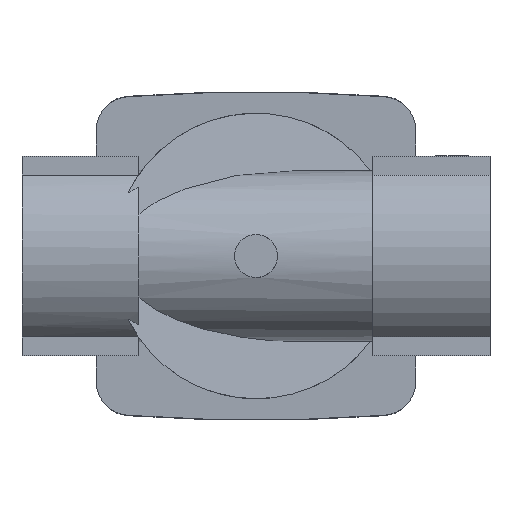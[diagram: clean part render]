
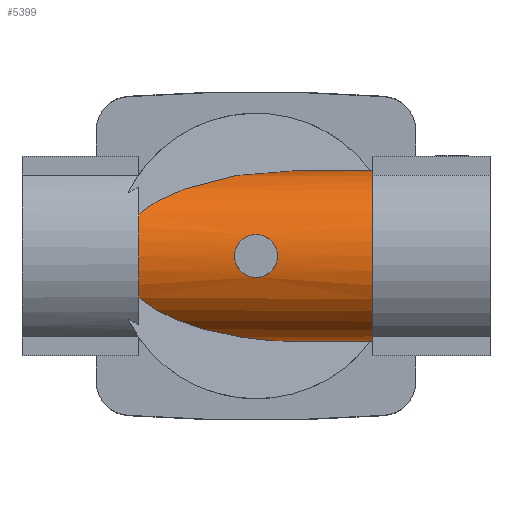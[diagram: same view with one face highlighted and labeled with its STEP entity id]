
A CAD part, front view. The second image highlights one B-rep face of the part: STEP entity #5399.
In plain terms, the highlighted cylindrical face has radius 30 mm (diameter 60 mm), a partial arc.
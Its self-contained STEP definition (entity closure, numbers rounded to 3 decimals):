
#59=ELLIPSE('',#5716,71.15,30.);
#62=ELLIPSE('',#5723,71.15,30.);
#82=B_SPLINE_CURVE_WITH_KNOTS('',3,(#7864,#7865,#7866,#7867,#7868,#7869,
#7870,#7871,#7872,#7873,#7874,#7875,#7876,#7877,#7878,#7879,#7880,#7881,
#7882),.UNSPECIFIED.,.T.,.F.,(1,1,1,1,1,1,1,1,1,1,1,1,1,1,1,1,1,1,1,1,1,
1,1),(-0.009,-0.006,-0.003,0.,
0.003,0.006,0.009,0.012,
0.015,0.018,0.021,0.024,
0.026,0.029,0.032,0.035,
0.038,0.041,0.044,0.047,
0.05,0.053,0.056),.UNSPECIFIED.);
#133=CYLINDRICAL_SURFACE('',#5746,30.);
#367=LINE('',#7859,#785);
#368=LINE('',#7863,#786);
#785=VECTOR('',#6558,1000.);
#786=VECTOR('',#6561,1000.);
#1558=ORIENTED_EDGE('',*,*,#2467,.F.);
#1559=ORIENTED_EDGE('',*,*,#2507,.T.);
#1560=ORIENTED_EDGE('',*,*,#2452,.F.);
#1561=ORIENTED_EDGE('',*,*,#2508,.F.);
#1562=ORIENTED_EDGE('',*,*,#2509,.F.);
#1563=ORIENTED_EDGE('',*,*,#2510,.T.);
#1564=ORIENTED_EDGE('',*,*,#2511,.F.);
#2452=EDGE_CURVE('',#2988,#2989,#59,.F.);
#2467=EDGE_CURVE('',#3001,#3002,#62,.F.);
#2507=EDGE_CURVE('',#3001,#2989,#3282,.T.);
#2508=EDGE_CURVE('',#3022,#2988,#367,.T.);
#2509=EDGE_CURVE('',#3023,#3022,#3283,.T.);
#2510=EDGE_CURVE('',#3023,#3002,#368,.T.);
#2511=EDGE_CURVE('',#3024,#3024,#82,.T.);
#2988=VERTEX_POINT('',#7744);
#2989=VERTEX_POINT('',#7746);
#3001=VERTEX_POINT('',#7781);
#3002=VERTEX_POINT('',#7783);
#3022=VERTEX_POINT('',#7860);
#3023=VERTEX_POINT('',#7862);
#3024=VERTEX_POINT('',#7883);
#3282=CIRCLE('',#5747,30.);
#3283=CIRCLE('',#5748,30.);
#3462=EDGE_LOOP('',(#1558,#1559,#1560,#1561,#1562,#1563));
#3463=EDGE_LOOP('',(#1564));
#3748=FACE_BOUND('',#3462,.T.);
#3749=FACE_BOUND('',#3463,.T.);
#5399=ADVANCED_FACE('',(#3748,#3749),#133,.T.);
#5716=AXIS2_PLACEMENT_3D('',#7745,#6453,#6454);
#5723=AXIS2_PLACEMENT_3D('',#7782,#6476,#6477);
#5746=AXIS2_PLACEMENT_3D('',#7857,#6554,#6555);
#5747=AXIS2_PLACEMENT_3D('',#7858,#6556,#6557);
#5748=AXIS2_PLACEMENT_3D('',#7861,#6559,#6560);
#6453=DIRECTION('',(0.422,-0.907,0.));
#6454=DIRECTION('',(-0.907,-0.422,0.));
#6476=DIRECTION('',(0.422,-0.907,0.));
#6477=DIRECTION('',(-0.907,-0.422,0.));
#6554=DIRECTION('',(-1.,0.,0.));
#6555=DIRECTION('',(0.,0.,1.));
#6556=DIRECTION('',(1.,0.,0.));
#6557=DIRECTION('',(0.,0.,-1.));
#6558=DIRECTION('',(-1.,0.,0.));
#6559=DIRECTION('',(1.,0.,0.));
#6560=DIRECTION('',(0.,0.,-1.));
#6561=DIRECTION('',(-1.,0.,0.));
#7744=CARTESIAN_POINT('',(15.161,-46.2,-30.));
#7745=CARTESIAN_POINT('',(15.161,-46.2,0.));
#7746=CARTESIAN_POINT('',(-41.,-72.315,-14.765));
#7781=CARTESIAN_POINT('',(-41.,-72.315,14.765));
#7782=CARTESIAN_POINT('',(15.161,-46.2,0.));
#7783=CARTESIAN_POINT('',(15.161,-46.2,30.));
#7857=CARTESIAN_POINT('',(41.,-46.2,0.));
#7858=CARTESIAN_POINT('',(-41.,-46.2,0.));
#7859=CARTESIAN_POINT('',(41.,-46.2,-30.));
#7860=CARTESIAN_POINT('',(41.,-46.2,-30.));
#7861=CARTESIAN_POINT('',(41.,-46.2,0.));
#7862=CARTESIAN_POINT('',(41.,-46.2,30.));
#7863=CARTESIAN_POINT('',(41.,-46.2,30.));
#7864=CARTESIAN_POINT('',(2.966,-75.354,7.101));
#7865=CARTESIAN_POINT('',(-0.002,-75.194,7.699));
#7866=CARTESIAN_POINT('',(-2.957,-75.354,7.104));
#7867=CARTESIAN_POINT('',(-5.441,-75.729,5.439));
#7868=CARTESIAN_POINT('',(-7.104,-76.097,2.957));
#7869=CARTESIAN_POINT('',(-7.697,-76.251,0.006));
#7870=CARTESIAN_POINT('',(-7.108,-76.098,-2.951));
#7871=CARTESIAN_POINT('',(-5.439,-75.728,-5.441));
#7872=CARTESIAN_POINT('',(-2.955,-75.354,-7.105));
#7873=CARTESIAN_POINT('',(-0.004,-75.194,-7.697));
#7874=CARTESIAN_POINT('',(2.95,-75.353,-7.107));
#7875=CARTESIAN_POINT('',(5.435,-75.728,-5.444));
#7876=CARTESIAN_POINT('',(7.103,-76.097,-2.961));
#7877=CARTESIAN_POINT('',(7.698,-76.251,-0.004));
#7878=CARTESIAN_POINT('',(7.107,-76.098,2.952));
#7879=CARTESIAN_POINT('',(5.442,-75.729,5.437));
#7880=CARTESIAN_POINT('',(2.966,-75.354,7.101));
#7881=CARTESIAN_POINT('',(-0.002,-75.194,7.699));
#7882=CARTESIAN_POINT('',(-2.957,-75.354,7.104));
#7883=CARTESIAN_POINT('',(0.,-75.247,7.5));
